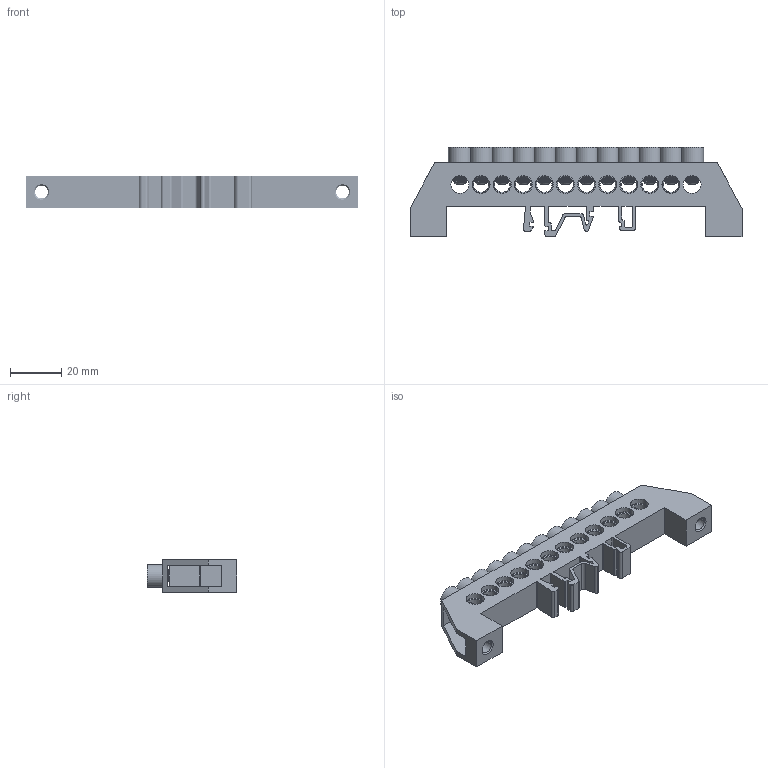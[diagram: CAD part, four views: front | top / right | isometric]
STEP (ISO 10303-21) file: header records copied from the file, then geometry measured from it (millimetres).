
FILE_DESCRIPTION (( 'STEP AP214' ), '1' );
FILE_NAME ('Øèíà íóëåâàÿ â êîìáèíèðîâàííîé èçîëÿöèè 8õ12 12.STEP', '2020-02-06T11:20:51', ( '' ), ( '' ), 'SwSTEP 2.0', 'SolidWorks 2018', '' );
FILE_SCHEMA (( 'AUTOMOTIVE_DESIGN' ));
Length unit declared in the file: millimetre
Products named in the file (4): Âèíò ì5; Øèíà 8õ12 12; Êîðïóñ èçîëÿöèè 8õ12 12; Øèíà íóëåâàÿ â êîìáèíèðîâàííîé èçîëÿöèè 8õ12 12
Assembly tree (14 placements, depth 2):
  Øèíà íóëåâàÿ â êîìáèíèðîâàííîé èçîëÿöèè 8õ12 12
    Êîðïóñ èçîëÿöèè 8õ12 12
    Øèíà 8õ12 12
    Âèíò ì5  x12
Bounding box: 129 x 34.8 x 12.5 mm (x, y, z)
Volume: 25392 mm3; surface area: 27645.3 mm2
Topology: 14 solids, 14 shells, 1217 faces, 3414 edges, 2212 vertices
Faces by surface type: cylinder 525, plane 400, cone 172, torus 84, bspline 36
Entity records: 16017 total; most frequent: CARTESIAN_POINT 5029, DIRECTION 2245, ORIENTED_EDGE 2204, EDGE_CURVE 1102, AXIS2_PLACEMENT_3D 853, VERTEX_POINT 716, VECTOR 539, LINE 539
